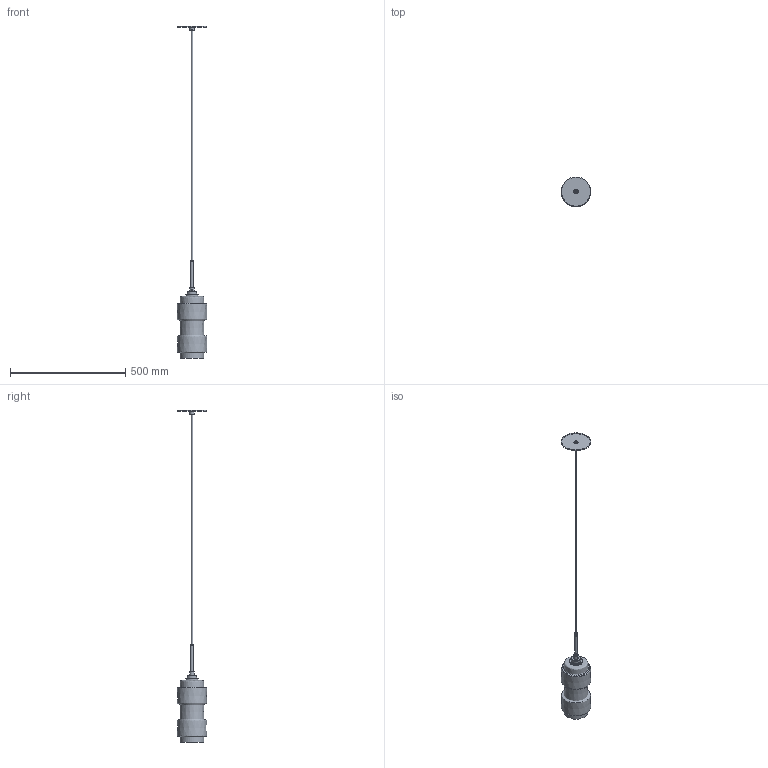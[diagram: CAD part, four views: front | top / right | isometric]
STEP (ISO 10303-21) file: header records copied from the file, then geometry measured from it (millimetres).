
FILE_DESCRIPTION(/* description */ (''),/* implementation_level */ '2;1');
FILE_NAME(/* name */ 'C:/Users/zach/Niche/Product Development - Documents/CAD Models/Pendants/Muralla/Glass - Luxe Hardware/Niche - Muralla Pendant.step',/* time_stamp */ '2022-09-27T15:23:58-04:00',/* author */ (''),/* organization */ (''),/* preprocessor_version */ 'ST-DEVELOPER v19',/* originating_system */ 'Autodesk Translation Framework v11.7.0.108',/* authorisation */ '');
FILE_SCHEMA (('AUTOMOTIVE_DESIGN { 1 0 10303 214 3 1 1 }'));
Length unit declared in the file: inch
Products named in the file (1): Murralla
Bounding box: 127 x 127 x 1438.91 mm (x, y, z)
Volume: 532666.4 mm3; surface area: 340178.3 mm2
Topology: 11 solids, 11 shells, 192 faces, 485 edges, 320 vertices
Faces by surface type: cylinder 125, plane 48, bspline 14, cone 4, sphere 1
Full cylindrical faces by diameter (mm): 4.529 x1, 5.08 x1, 6.096 x1, 6.35 x1, 6.5 x1, 7.62 x1, 7.744 x7, 8.036 x15, 8.852 x1, 8.884 x8, 9.035 x1, 9.146 x11, 10.16 x1, 12.7 x2, 19.05 x1, 19.2 x1, 25.4 x1, 26.022 x1, 34.97 x1, 35.052 x9, 37.85 x8, 38.1 x1, 39 x1, 39.35 x1, 41.035 x1, 41.2 x1, 41.884 x1, 44 x1, 55 x2, 120.648 x1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
Entity records: 15032 total; most frequent: CARTESIAN_POINT 10743, ORIENTED_EDGE 968, DIRECTION 703, EDGE_CURVE 484, VERTEX_POINT 320, AXIS2_PLACEMENT_3D 266, EDGE_LOOP 222, B_SPLINE_CURVE_WITH_KNOTS 220
